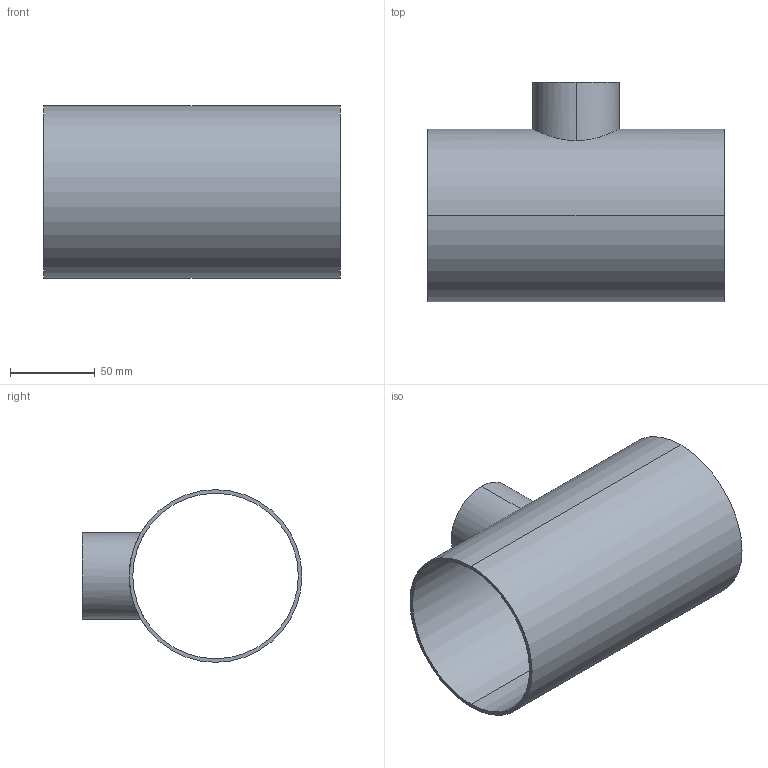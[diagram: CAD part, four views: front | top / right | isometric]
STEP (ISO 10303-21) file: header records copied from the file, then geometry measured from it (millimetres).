
FILE_DESCRIPTION (( 'STEP AP203' ), '1' );
FILE_NAME ('E7RWWW4.0X2.0.STEP', '2018-04-30T18:55:07', ( 'vneprd' ), ( 'Microsoft' ), 'SwSTEP 2.0', 'SolidWorks 2014', '' );
FILE_SCHEMA (( 'CONFIG_CONTROL_DESIGN' ));
Length unit declared in the file: inch
Products named in the file (1): E7RWWW4.0X2.0
Bounding box: 174.62 x 129.29 x 101.6 mm (x, y, z)
Volume: 119069.3 mm3; surface area: 116659 mm2
Topology: 1 solids, 1 shells, 11 faces, 24 edges, 16 vertices
Faces by surface type: cylinder 8, plane 3
Entity records: 651 total; most frequent: CARTESIAN_POINT 314, DIRECTION 56, ORIENTED_EDGE 48, EDGE_CURVE 24, AXIS2_PLACEMENT_3D 24, EDGE_LOOP 16, VERTEX_POINT 16, CIRCLE 12
